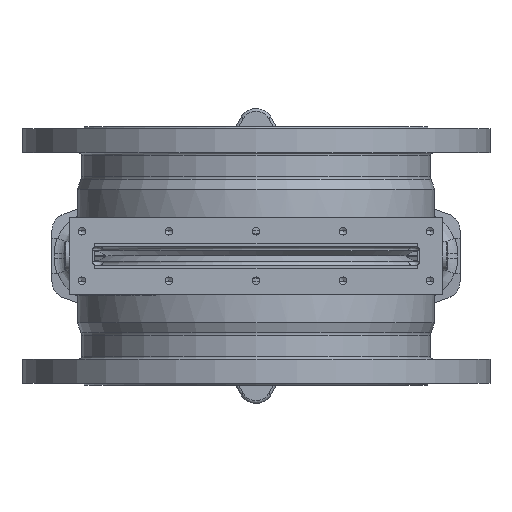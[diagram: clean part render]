
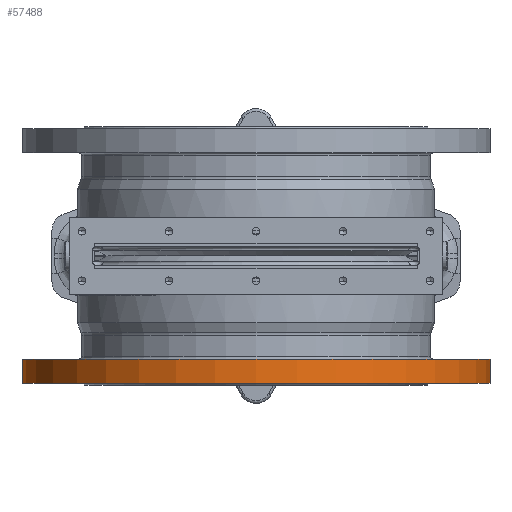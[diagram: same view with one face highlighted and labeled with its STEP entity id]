
A CAD part, front view. The second image highlights one B-rep face of the part: STEP entity #57488.
In plain terms, the highlighted cylindrical face has radius 203 mm (diameter 406 mm), a full revolution.
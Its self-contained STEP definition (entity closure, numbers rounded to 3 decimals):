
#3365=CYLINDRICAL_SURFACE('',#63955,203.);
#7405=LINE('',#110873,#10735);
#10735=VECTOR('',#78403,203.);
#14750=FACE_OUTER_BOUND('',#18462,.T.);
#18462=EDGE_LOOP('',(#50141,#50142,#50143,#50144,#50145));
#22507=CIRCLE('',#63956,203.);
#22508=CIRCLE('',#63957,203.);
#22509=CIRCLE('',#63958,203.);
#27282=VERTEX_POINT('',#110870);
#27283=VERTEX_POINT('',#110872);
#27284=VERTEX_POINT('',#110874);
#35247=EDGE_CURVE('',#27282,#27282,#22507,.T.);
#35248=EDGE_CURVE('',#27282,#27283,#7405,.T.);
#35249=EDGE_CURVE('',#27283,#27284,#22508,.T.);
#35250=EDGE_CURVE('',#27284,#27283,#22509,.T.);
#50141=ORIENTED_EDGE('',*,*,#35247,.T.);
#50142=ORIENTED_EDGE('',*,*,#35248,.T.);
#50143=ORIENTED_EDGE('',*,*,#35249,.T.);
#50144=ORIENTED_EDGE('',*,*,#35250,.T.);
#50145=ORIENTED_EDGE('',*,*,#35248,.F.);
#57488=ADVANCED_FACE('',(#14750),#3365,.T.);
#63955=AXIS2_PLACEMENT_3D('',#110869,#78399,#78400);
#63956=AXIS2_PLACEMENT_3D('',#110871,#78401,#78402);
#63957=AXIS2_PLACEMENT_3D('',#110875,#78404,#78405);
#63958=AXIS2_PLACEMENT_3D('',#110876,#78406,#78407);
#78399=DIRECTION('center_axis',(0.,0.,
-1.));
#78400=DIRECTION('ref_axis',(0.,1.,0.));
#78401=DIRECTION('center_axis',(0.,0.,
1.));
#78402=DIRECTION('ref_axis',(0.,1.,0.));
#78403=DIRECTION('',(0.,0.,1.));
#78404=DIRECTION('center_axis',(0.,0.,
-1.));
#78405=DIRECTION('ref_axis',(-1.,0.,0.));
#78406=DIRECTION('center_axis',(0.,0.,
-1.));
#78407=DIRECTION('ref_axis',(-1.,0.,0.));
#110869=CARTESIAN_POINT('Origin',(0.,0.,
-101.5));
#110870=CARTESIAN_POINT('',(0.,-203.,-110.5));
#110871=CARTESIAN_POINT('Origin',(0.,0.,
-110.5));
#110872=CARTESIAN_POINT('',(0.,-203.,-89.5));
#110873=CARTESIAN_POINT('',(0.,-203.,-101.5));
#110874=CARTESIAN_POINT('',(0.,203.,-89.5));
#110875=CARTESIAN_POINT('Origin',(0.,0.,
-89.5));
#110876=CARTESIAN_POINT('Origin',(0.,0.,
-89.5));
